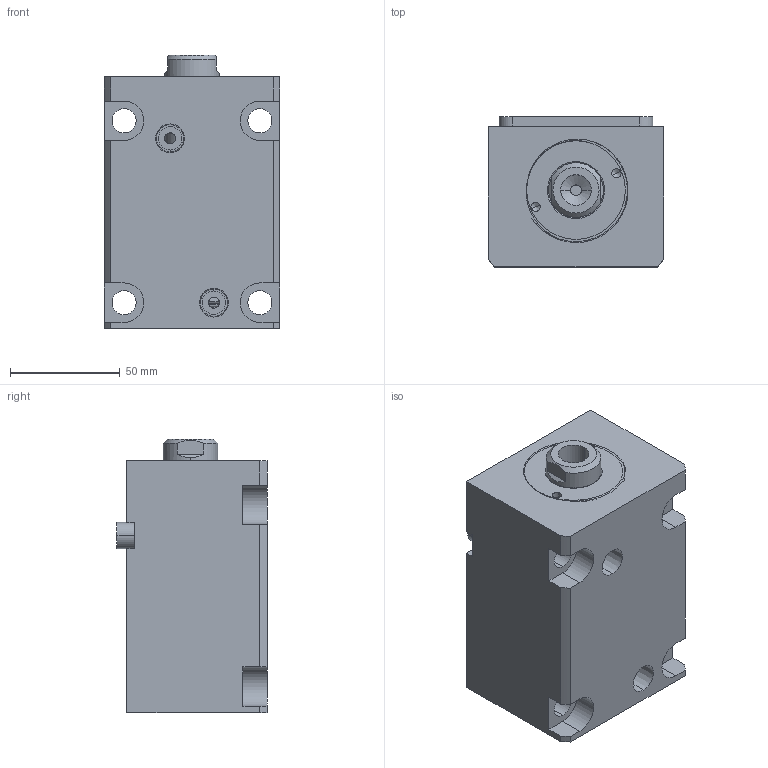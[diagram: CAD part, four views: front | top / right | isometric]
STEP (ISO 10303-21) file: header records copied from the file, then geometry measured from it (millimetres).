
FILE_DESCRIPTION (( 'STEP AP214' ), '1' );
FILE_NAME ('chtb-la40x60n_asm.STEP', '2018-05-31T01:52:08', ( 'Windows' ), ( 'Microsoft' ), 'SwSTEP 2.0', 'SolidWorks 2015', '' );
FILE_SCHEMA (( 'AUTOMOTIVE_DESIGN' ));
Length unit declared in the file: millimetre
Products named in the file (5): CHTB-LA40X60NBT; chtb-la40x60n_asm; CHTB-LA40PJ; CHTB-SD40QG; CHTB-SD40X60NHSG
Assembly tree (4 placements, depth 2):
  chtb-la40x60n_asm
    CHTB-LA40X60NBT
    CHTB-SD40X60NHSG
    CHTB-SD40QG
    CHTB-LA40PJ
Bounding box: 80 x 68.5 x 125 mm (x, y, z)
Volume: 504061.5 mm3; surface area: 94596.8 mm2
Topology: 4 solids, 4 shells, 160 faces, 430 edges, 286 vertices
Faces by surface type: cylinder 73, plane 48, bspline 14, cone 13, torus 12
Entity records: 10258 total; most frequent: CARTESIAN_POINT 6106, ORIENTED_EDGE 848, DIRECTION 787, EDGE_CURVE 424, AXIS2_PLACEMENT_3D 314, VERTEX_POINT 286, EDGE_LOOP 188, CIRCLE 161
